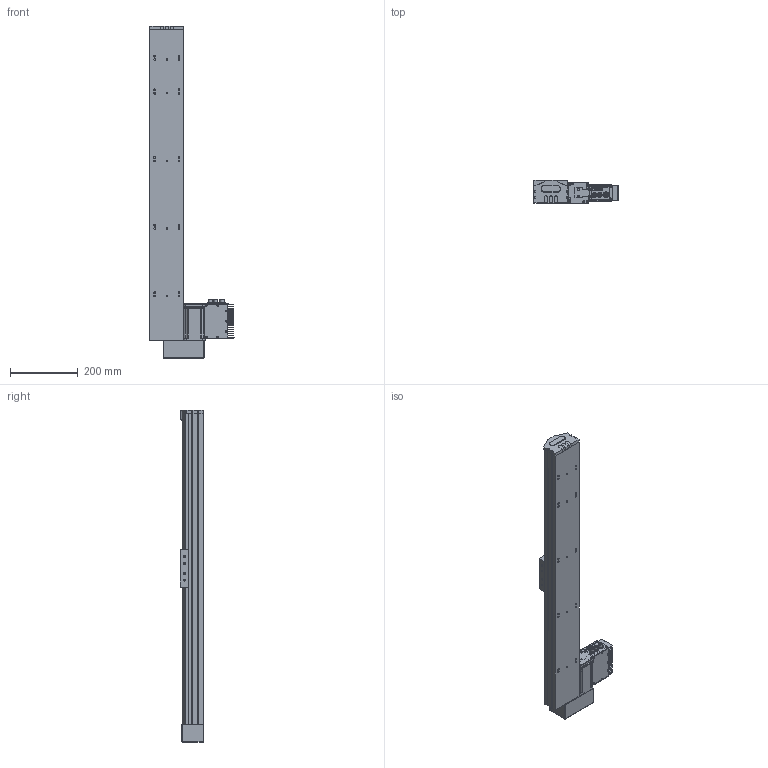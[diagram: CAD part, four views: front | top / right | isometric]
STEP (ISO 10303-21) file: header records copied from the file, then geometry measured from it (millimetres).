
FILE_DESCRIPTION (( 'STEP AP203' ), '1' );
FILE_NAME ('S 10 TSH BR S700.STEP', '2012-09-04T13:34:57', ( 'Conseil Régional Haute-Normandie' ), ( 'Conseil Régional Haute-Normandie' ), 'SwSTEP 2.0', 'SolidWorks 2010', '' );
FILE_SCHEMA (( 'CONFIG_CONTROL_DESIGN' ));
Length unit declared in the file: millimetre
Products named in the file (25): axe920_Default; T_X2_00F4_X0_le contre le moteur_5; Pièce2_Default; Assem1_7; Couvercle_3; Connecteur rond D10 3cts_5; T_X2_00F4_X0_le fond_3; T_X2_00F4_X0_le Arri_X2_00E8_X0_re_5; T_X2_00F4_X0_le lat_X2_00E9_X0_rale_5; palette tbn2; S 10 TSH BR S700; piece_plastique remplieTSH_Default; embout_modifié; remplir_Default; BU41 Carte Alimentation P05_3; Colonnette_3; BU45 Carte d''axe A11_5; Moteur 60BLDC90A_3; Connecteur rond D12 4cts_5; Sub D 9cts 90_X2_00B_X0__3; Radiateur profil_X2_00E9_X0_ 100x25_3; Colonnette ronde_3; Vis TF 3 torkx_1_1; renvoie LH2_Default; Vis TF 3 torkx
Assembly tree (55 placements, depth 3):
  S 10 TSH BR S700
    axe920_Default
    Vis TF 3 torkx  x7
    piece_plastique remplieTSH_Default
      remplir_Default  x3
      embout_modifié
      Pièce2_Default
    Assem1_7
      Couvercle_3
      T_X2_00F4_X0_le lat_X2_00E9_X0_rale_5  x2
      Vis TF 3 torkx_1_1  x21
      Colonnette ronde_3
      T_X2_00F4_X0_le Arri_X2_00E8_X0_re_5
      Moteur 60BLDC90A_3
      Connecteur rond D10 3cts_5  x2
      Connecteur rond D12 4cts_5
      T_X2_00F4_X0_le fond_3
      Colonnette_3  x2
      BU45 Carte d''axe A11_5
      Sub D 9cts 90_X2_00B_X0__3
      Radiateur profil_X2_00E9_X0_ 100x25_3
      BU41 Carte Alimentation P05_3
      T_X2_00F4_X0_le contre le moteur_5
    palette tbn2
    renvoie LH2_Default
Bounding box: 248.72 x 68.29 x 982 mm (x, y, z)
Volume: 5489713 mm3; surface area: 747699.7 mm2
Topology: 53 solids, 53 shells, 1989 faces, 5056 edges, 3290 vertices
Faces by surface type: plane 929, cylinder 889, cone 164, sphere 4, torus 3
Entity records: 39217 total; most frequent: CARTESIAN_POINT 6567, DIRECTION 6413, ORIENTED_EDGE 5804, EDGE_CURVE 2902, AXIS2_PLACEMENT_3D 2361, VERTEX_POINT 1902, LINE 1691, VECTOR 1691
